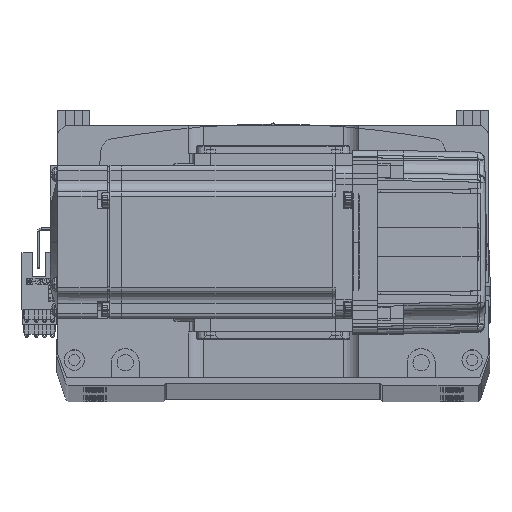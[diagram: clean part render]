
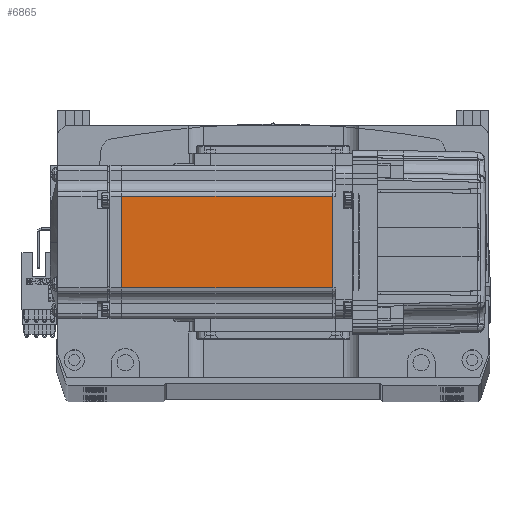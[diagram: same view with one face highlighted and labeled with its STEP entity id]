
A CAD part, top view. The second image highlights one B-rep face of the part: STEP entity #6865.
In plain terms, the highlighted planar face has unit normal (0, 0, 1).
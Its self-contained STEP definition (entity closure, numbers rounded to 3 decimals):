
#1949 = CARTESIAN_POINT ( 'NONE',  ( -6.5, -18., 30. ) ) ;
#5897 = VECTOR ( 'NONE', #63080, 1000. ) ;
#6865 = ADVANCED_FACE ( 'NONE', ( #64262 ), #24643, .T. ) ;
#6945 = CARTESIAN_POINT ( 'NONE',  ( -90.45, -18., 30. ) ) ;
#11509 = EDGE_LOOP ( 'NONE', ( #58339, #43893, #19975, #32243 ) ) ;
#11711 = CARTESIAN_POINT ( 'NONE',  ( -90.45, 0., 30. ) ) ;
#15560 = LINE ( 'NONE', #11711, #5897 ) ;
#16177 = VERTEX_POINT ( 'NONE', #32515 ) ;
#17870 = EDGE_CURVE ( 'NONE', #16177, #67640, #61810, .T. ) ;
#19975 = ORIENTED_EDGE ( 'NONE', *, *, #22441, .T. ) ;
#22239 = DIRECTION ( 'NONE',  ( 0., -1., 0. ) ) ;
#22441 = EDGE_CURVE ( 'NONE', #23853, #58327, #15560, .T. ) ;
#23853 = VERTEX_POINT ( 'NONE', #54477 ) ;
#24643 = PLANE ( 'NONE',  #56128 ) ;
#29680 = EDGE_CURVE ( 'NONE', #67640, #58327, #51402, .T. ) ;
#30323 = DIRECTION ( 'NONE',  ( -1., 0., 0. ) ) ;
#31283 = EDGE_CURVE ( 'NONE', #16177, #23853, #67823, .T. ) ;
#32243 = ORIENTED_EDGE ( 'NONE', *, *, #29680, .F. ) ;
#32515 = CARTESIAN_POINT ( 'NONE',  ( -7.75, 18., 30. ) ) ;
#35234 = DIRECTION ( 'NONE',  ( 0., 0., 1. ) ) ;
#43893 = ORIENTED_EDGE ( 'NONE', *, *, #31283, .T. ) ;
#51402 = LINE ( 'NONE', #1949, #52234 ) ;
#51852 = VECTOR ( 'NONE', #71175, 1000. ) ;
#52234 = VECTOR ( 'NONE', #30323, 1000. ) ;
#54477 = CARTESIAN_POINT ( 'NONE',  ( -90.45, 18., 30. ) ) ;
#55827 = CARTESIAN_POINT ( 'NONE',  ( -7.75, 0., 30. ) ) ;
#56128 = AXIS2_PLACEMENT_3D ( 'NONE', #69148, #35234, #69398 ) ;
#58327 = VERTEX_POINT ( 'NONE', #6945 ) ;
#58339 = ORIENTED_EDGE ( 'NONE', *, *, #17870, .F. ) ;
#60037 = VECTOR ( 'NONE', #22239, 1000. ) ;
#61810 = LINE ( 'NONE', #55827, #60037 ) ;
#63080 = DIRECTION ( 'NONE',  ( 0., -1., 0. ) ) ;
#64262 = FACE_OUTER_BOUND ( 'NONE', #11509, .T. ) ;
#67640 = VERTEX_POINT ( 'NONE', #72211 ) ;
#67823 = LINE ( 'NONE', #71415, #51852 ) ;
#69148 = CARTESIAN_POINT ( 'NONE',  ( -6.5, -25., 30. ) ) ;
#69398 = DIRECTION ( 'NONE',  ( 1., 0., 0. ) ) ;
#71175 = DIRECTION ( 'NONE',  ( -1., 0., 0. ) ) ;
#71415 = CARTESIAN_POINT ( 'NONE',  ( -6.5, 18., 30. ) ) ;
#72211 = CARTESIAN_POINT ( 'NONE',  ( -7.75, -18., 30. ) ) ;
